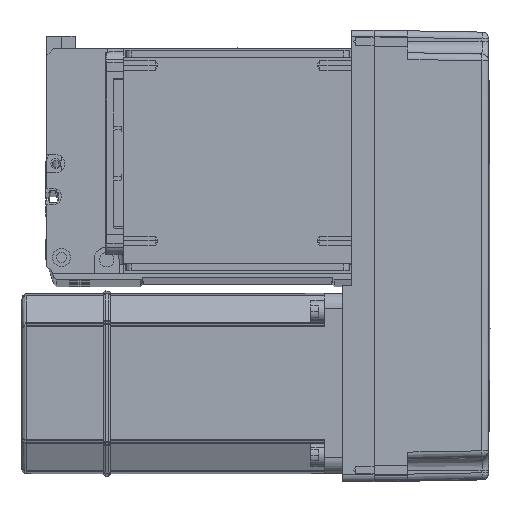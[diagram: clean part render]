
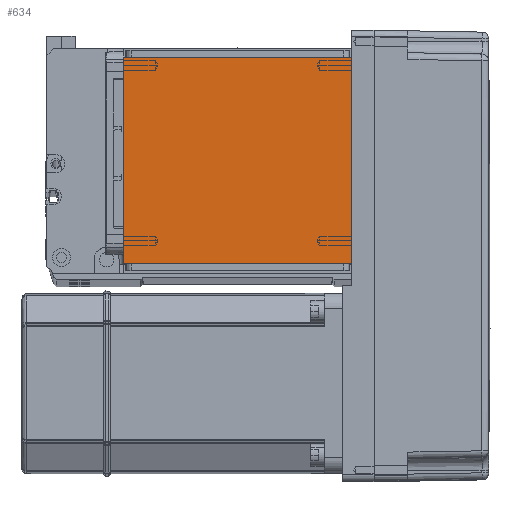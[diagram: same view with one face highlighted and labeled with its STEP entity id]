
A CAD part, top view. The second image highlights one B-rep face of the part: STEP entity #634.
In plain terms, the highlighted planar face has unit normal (0, 0, 1).
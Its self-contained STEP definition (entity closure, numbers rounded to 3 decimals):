
#241 = CARTESIAN_POINT ( 'NONE',  ( -70.004, 111.5, 115. ) ) ;
#262 = LINE ( 'NONE', #51990, #6867 ) ;
#634 = ADVANCED_FACE ( 'NONE', ( #27549 ), #32173, .T. ) ;
#2259 = CARTESIAN_POINT ( 'NONE',  ( 50.5, 111.5, 115. ) ) ;
#6867 = VECTOR ( 'NONE', #9501, 1000. ) ;
#7833 = DIRECTION ( 'NONE',  ( 0., 0., 1. ) ) ;
#8720 = LINE ( 'NONE', #29029, #38936 ) ;
#9501 = DIRECTION ( 'NONE',  ( 0., -1., 0. ) ) ;
#9583 = CARTESIAN_POINT ( 'NONE',  ( -50.5, 20., 115. ) ) ;
#9772 = LINE ( 'NONE', #241, #45939 ) ;
#10435 = DIRECTION ( 'NONE',  ( 0., 1., 0. ) ) ;
#13185 = CARTESIAN_POINT ( 'NONE',  ( -70.004, 20., 115. ) ) ;
#13439 = DIRECTION ( 'NONE',  ( 1., 0., 0. ) ) ;
#17449 = ORIENTED_EDGE ( 'NONE', *, *, #56134, .T. ) ;
#18828 = ORIENTED_EDGE ( 'NONE', *, *, #37300, .F. ) ;
#19590 = VERTEX_POINT ( 'NONE', #2259 ) ;
#23139 = ORIENTED_EDGE ( 'NONE', *, *, #25418, .T. ) ;
#25418 = EDGE_CURVE ( 'NONE', #34754, #48799, #262, .T. ) ;
#27549 = FACE_OUTER_BOUND ( 'NONE', #52417, .T. ) ;
#29029 = CARTESIAN_POINT ( 'NONE',  ( 50.5, 122., 115. ) ) ;
#32173 = PLANE ( 'NONE',  #36980 ) ;
#32361 = EDGE_CURVE ( 'NONE', #34754, #19590, #9772, .T. ) ;
#34754 = VERTEX_POINT ( 'NONE', #43694 ) ;
#36094 = DIRECTION ( 'NONE',  ( 1., 0., 0. ) ) ;
#36980 = AXIS2_PLACEMENT_3D ( 'NONE', #50497, #7833, #36094 ) ;
#37300 = EDGE_CURVE ( 'NONE', #54245, #48799, #59525, .T. ) ;
#37736 = DIRECTION ( 'NONE',  ( -1., 0., 0. ) ) ;
#38936 = VECTOR ( 'NONE', #10435, 1000. ) ;
#39536 = CARTESIAN_POINT ( 'NONE',  ( 50.5, 20., 115. ) ) ;
#41810 = VECTOR ( 'NONE', #37736, 1000. ) ;
#43694 = CARTESIAN_POINT ( 'NONE',  ( -50.5, 111.5, 115. ) ) ;
#45939 = VECTOR ( 'NONE', #13439, 1000. ) ;
#48331 = ORIENTED_EDGE ( 'NONE', *, *, #32361, .F. ) ;
#48799 = VERTEX_POINT ( 'NONE', #9583 ) ;
#50497 = CARTESIAN_POINT ( 'NONE',  ( 0., 0., 115. ) ) ;
#51990 = CARTESIAN_POINT ( 'NONE',  ( -50.5, 122., 115. ) ) ;
#52417 = EDGE_LOOP ( 'NONE', ( #48331, #23139, #18828, #17449 ) ) ;
#54245 = VERTEX_POINT ( 'NONE', #39536 ) ;
#56134 = EDGE_CURVE ( 'NONE', #54245, #19590, #8720, .T. ) ;
#59525 = LINE ( 'NONE', #13185, #41810 ) ;
